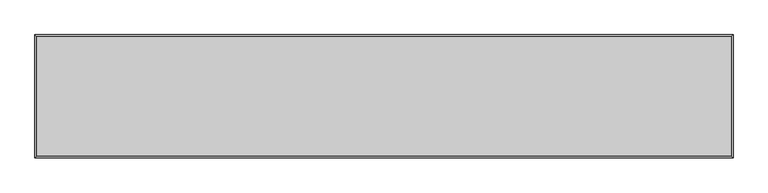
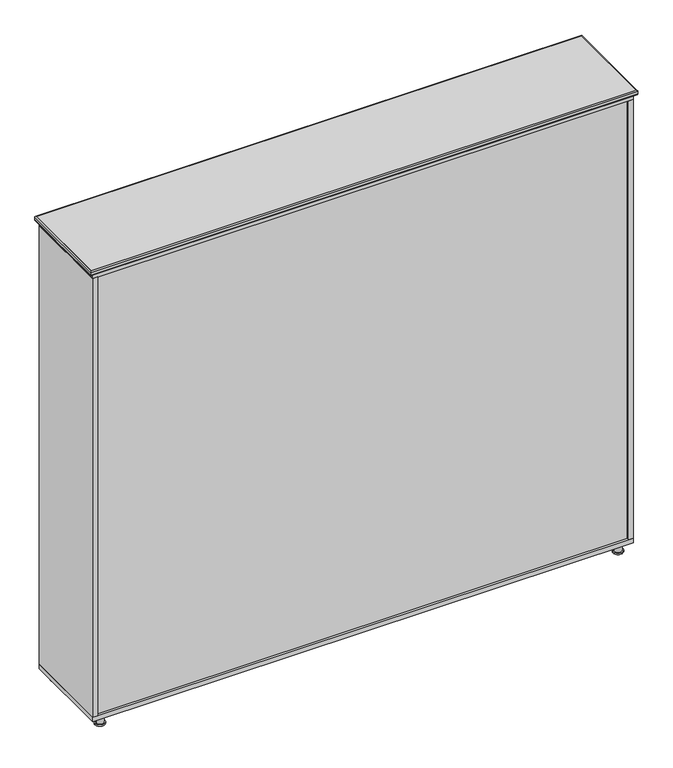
"""IFC4 building model written with IfcOpenShell, lengths in millimetres: furniture geometry, 书柜7 : W800*D419*H1515mm 3."""

import ifcopenshell
import ifcopenshell.guid

model = None  # the IFC model being written
_history = None  # IfcOwnerHistory: only IFC2X3 demands one
_inside = {}  # id of a spatial element -> (the spatial element, [elements in it])
_under = {}  # id of a project, library or spatial element -> (it, [spatial elements below it])
_declared = {}  # id of a project -> (the project, [libraries it declares])
_typed = {}  # id of a type object -> (the type object, [elements of that type])
_made_of = {}  # id of a material, layer set ... -> (it, [elements and type objects made of it])


def new_model(schema):
    """Start an empty IFC model of exactly this schema.

    Asked for "IFC4X3", IfcOpenShell would pick the latest addendum, in which some entities
    have other attributes; the version numbers below select the first issue.
    IFC2X3 requires an IfcOwnerHistory on every rooted entity: one is made here for all.
    """
    global model, _history
    if schema == "IFC4X3":
        model = ifcopenshell.file(schema_version=(4, 3, 0, 0))
    else:
        model = ifcopenshell.file(schema=schema)
    _inside.clear()
    _under.clear()
    _declared.clear()
    _typed.clear()
    _made_of.clear()
    _history = None
    if model.schema == "IFC2X3":
        org = make("IfcOrganization", Name="unknown")
        user = make(
            "IfcPersonAndOrganization",
            ThePerson=make("IfcPerson", FamilyName="unknown"),
            TheOrganization=org,
        )
        app = make(
            "IfcApplication",
            ApplicationDeveloper=org,
            Version="unknown",
            ApplicationFullName="unknown",
            ApplicationIdentifier="unknown",
        )
        _history = make(
            "IfcOwnerHistory",
            OwningUser=user,
            OwningApplication=app,
            ChangeAction="ADDED",
            CreationDate=0,
        )
    return model


def make(cls, **values):
    """One entity of the class cls with the attributes given. An attribute that is None is left unset."""
    return model.create_entity(
        cls, **{name: value for name, value in values.items() if value is not None}
    )


def rooted(cls, **values):
    """An entity with a GlobalId (a new one), such as an element, a storey or a relation."""
    return make(cls, GlobalId=ifcopenshell.guid.new(), OwnerHistory=_history, **values)


def si_unit(unit_type, name, prefix=None):
    """IfcSIUnit, for example si_unit("LENGTHUNIT", "METRE", prefix="MILLI")."""
    return make("IfcSIUnit", UnitType=unit_type, Prefix=prefix, Name=name)


def assignment(units):
    """IfcUnitAssignment: the units of a project."""
    return None if units is None else make("IfcUnitAssignment", Units=units)


def point(xyz):
    """IfcCartesianPoint."""
    return None if xyz is None else make("IfcCartesianPoint", Coordinates=xyz)


def direction(xyz):
    """IfcDirection."""
    return None if xyz is None else make("IfcDirection", DirectionRatios=xyz)


def frame(location, z_axis=None, x_axis=None):
    """IfcAxis2Placement3D, a coordinate frame: its origin and axes. An axis left out is left unset."""
    return make(
        "IfcAxis2Placement3D",
        Location=point(location),
        Axis=direction(z_axis),
        RefDirection=direction(x_axis),
    )


def frame_2d(location, x_axis=None):
    """IfcAxis2Placement2D, a coordinate frame in the plane: its origin and x axis."""
    return make(
        "IfcAxis2Placement2D", Location=point(location), RefDirection=direction(x_axis)
    )


def origin():
    """The frame at (0, 0, 0) with its axes left unset."""
    return frame((0.0, 0.0, 0.0))


def origin_with_axes():
    """The frame at (0, 0, 0) with the z axis (0, 0, 1) and the x axis (1, 0, 0) written out."""
    return frame((0.0, 0.0, 0.0), z_axis=(0.0, 0.0, 1.0), x_axis=(1.0, 0.0, 0.0))


def place(relative_to, where):
    """IfcLocalPlacement: puts the frame where relative to a parent placement (None: the world)."""
    return make(
        "IfcLocalPlacement", PlacementRelTo=relative_to, RelativePlacement=where
    )


def context(
    kind, dimensions, precision=None, world=None, true_north=None, identifier=None
):
    """IfcGeometricRepresentationContext, for example the 3D "Model" context."""
    return make(
        "IfcGeometricRepresentationContext",
        ContextIdentifier=identifier,
        ContextType=kind,
        CoordinateSpaceDimension=dimensions,
        Precision=precision,
        WorldCoordinateSystem=world,
        TrueNorth=true_north,
    )


def project(units=None, contexts=None):
    """IfcProject with its units and contexts."""
    return rooted(
        "IfcProject",
        Name="project",
        RepresentationContexts=contexts,
        UnitsInContext=assignment(units),
    )


def spatial(cls, under=None, at=None, **own):
    """A site, building, storey or space (cls), placed at a placement, below another one or the project."""
    s = rooted(cls, ObjectPlacement=at, **own)
    if under is not None:
        _under.setdefault(under.id(), (under, []))[1].append(s)
    return s


def polyline(points):
    """IfcPolyline through the points."""
    return make("IfcPolyline", Points=[point(p) for p in points])


def circle_curve(where, radius):
    """IfcCircle in the frame where."""
    return make("IfcCircle", Position=where, Radius=radius)


def ellipse_curve(where, semi_axis1, semi_axis2):
    """IfcEllipse in the frame where."""
    return make(
        "IfcEllipse", Position=where, SemiAxis1=semi_axis1, SemiAxis2=semi_axis2
    )


def trimmed(basis, trim1, trim2, sense, master):
    """IfcTrimmedCurve: the piece of a basis curve between two trims."""
    return make(
        "IfcTrimmedCurve",
        BasisCurve=basis,
        Trim1=trim1,
        Trim2=trim2,
        SenseAgreement=sense,
        MasterRepresentation=master,
    )


def segment(curve, same_sense, transition):
    """IfcCompositeCurveSegment."""
    return make(
        "IfcCompositeCurveSegment",
        Transition=transition,
        SameSense=same_sense,
        ParentCurve=curve,
    )


def composite_curve(segments, self_intersect=None):
    """IfcCompositeCurve: segments joined end to end."""
    return make("IfcCompositeCurve", Segments=segments, SelfIntersect=self_intersect)


def outline(outer, holes=None, kind="AREA"):
    """IfcArbitraryClosedProfileDef: a profile drawn as a closed curve; with holes, ...WithVoids."""
    if holes is None:
        return make("IfcArbitraryClosedProfileDef", ProfileType=kind, OuterCurve=outer)
    return make(
        "IfcArbitraryProfileDefWithVoids",
        ProfileType=kind,
        OuterCurve=outer,
        InnerCurves=holes,
    )


def extrude(swept, where, along, depth):
    """IfcExtrudedAreaSolid: the profile swept, set in the frame where, extruded along a direction by depth."""
    return make(
        "IfcExtrudedAreaSolid",
        SweptArea=swept,
        Position=where,
        ExtrudedDirection=direction(along),
        Depth=depth,
    )


def shape(context_of_items, identifier, shape_type, items):
    """IfcShapeRepresentation: the items that make up one representation, for example the "Body"."""
    return make(
        "IfcShapeRepresentation",
        ContextOfItems=context_of_items,
        RepresentationIdentifier=identifier,
        RepresentationType=shape_type,
        Items=items,
    )


def source(mapping_origin, context_of_items, identifier, shape_type, items):
    """IfcRepresentationMap: a shape defined once, which mapped items show again and again."""
    return make(
        "IfcRepresentationMap",
        MappingOrigin=mapping_origin,
        MappedRepresentation=shape(context_of_items, identifier, shape_type, items),
    )


def transform(
    local_origin,
    x_axis=None,
    y_axis=None,
    z_axis=None,
    scale=None,
    scale2=None,
    scale3=None,
    uniform=True,
):
    """IfcCartesianTransformationOperator3D, or its non-uniform kind. x_axis, y_axis, z_axis: its Axis1, 2, 3."""
    if uniform:
        return make(
            "IfcCartesianTransformationOperator3D",
            Axis1=direction(x_axis),
            Axis2=direction(y_axis),
            LocalOrigin=point(local_origin),
            Scale=scale,
            Axis3=direction(z_axis),
        )
    return make(
        "IfcCartesianTransformationOperator3DnonUniform",
        Axis1=direction(x_axis),
        Axis2=direction(y_axis),
        LocalOrigin=point(local_origin),
        Scale=scale,
        Axis3=direction(z_axis),
        Scale2=scale2,
        Scale3=scale3,
    )


def mapped(mapping_source, mapping_target):
    """IfcMappedItem: shows the shape of a source again, moved by a transform."""
    return make(
        "IfcMappedItem", MappingSource=mapping_source, MappingTarget=mapping_target
    )


def made_of(thing, what):
    """Note that an element or type object is made of a material, layer set ...; save() writes the relation."""
    if what is not None:
        _made_of.setdefault(what.id(), (what, []))[1].append(thing)
    return thing


def element(
    cls,
    number,
    at=None,
    inside=None,
    cuts=None,
    type_object=None,
    material=None,
    context=None,
    identifier="Body",
    shape_type=None,
    held_by="IfcProductDefinitionShape",
    body=None,
    shapes=None,
    **own,
):
    """One element of the class cls, such as IfcWall. Its Tag is "e" and its number.

    at: its placement. inside: the storey or other place that contains it. cuts: it is an
    opening in that element (IfcRelVoidsElement). A single representation is given by context,
    identifier, shape_type and body (its items); several are given by shapes. held_by: the class
    of the entity that holds the representations. save() writes the other relations.
    """
    e = rooted(cls, Tag="e%d" % number, ObjectPlacement=at, **own)
    if body is not None:
        shapes = [shape(context, identifier, shape_type, body)]
    if shapes is not None:
        e.Representation = make(held_by, Representations=shapes)
    if inside is not None:
        _inside.setdefault(inside.id(), (inside, []))[1].append(e)
    if cuts is not None:
        rooted(
            "IfcRelVoidsElement", RelatingBuildingElement=cuts, RelatedOpeningElement=e
        )
    if type_object is not None:
        _typed.setdefault(type_object.id(), (type_object, []))[1].append(e)
    return made_of(e, material)


def aggregate(whole, parts):
    """IfcRelAggregates: a whole, such as a stair, and the parts it consists of."""
    return rooted("IfcRelAggregates", RelatingObject=whole, RelatedObjects=parts)


def save(model, path):
    """Write the relations noted so far, then the file.

    IfcRelAggregates (storeys below a building ...), IfcRelContainedInSpatialStructure (elements
    in a storey), IfcRelDefinesByType, IfcRelAssociatesMaterial and IfcRelDeclares: one each for
    every whole, place, type object, material and project.
    """
    for whole, parts in _under.values():
        aggregate(whole, parts)
    for where, things in _inside.values():
        rooted(
            "IfcRelContainedInSpatialStructure",
            RelatedElements=things,
            RelatingStructure=where,
        )
    for kind, things in _typed.values():
        rooted("IfcRelDefinesByType", RelatedObjects=things, RelatingType=kind)
    for what, things in _made_of.values():
        rooted("IfcRelAssociatesMaterial", RelatedObjects=things, RelatingMaterial=what)
    for by, libraries in _declared.values():
        rooted("IfcRelDeclares", RelatingContext=by, RelatedDefinitions=libraries)
    model.write(path)


def plane_surface(at):
    """IfcPlane: the flat surface through the origin of the frame at, square to its z axis."""
    return make("IfcPlane", Position=at)


def cylinder_surface(at, radius):
    """IfcCylindricalSurface: all points at the distance radius from the z axis of the frame at."""
    return make("IfcCylindricalSurface", Position=at, Radius=radius)


def advanced_brep(points, edges, surfaces, faces):
    """IfcAdvancedBrep: a solid bounded by faces that lie on surfaces and meet in shared edges.

    An edge is (start, end): straight between two places in points (the first is 0);
    or (start, end, curve); or (start, end, curve, False) where it runs against its curve.
    A face is (place in surfaces, loops), or (place, loops, False) where it looks against
    its surface's normal. A loop lists edges by number (the first is 1), with a minus sign
    where the edge is run from its end to its start. The first loop is the outer one.
    """
    corners = [point(p) for p in points]
    vertices = [make("IfcVertexPoint", VertexGeometry=c) for c in corners]
    made = []
    for start, end, *more in edges:
        made.append(
            make(
                "IfcEdgeCurve",
                EdgeStart=vertices[start],
                EdgeEnd=vertices[end],
                EdgeGeometry=more[0] if more else make("IfcPolyline", Points=[corners[start], corners[end]]),
                SameSense=more[1] if len(more) > 1 else True,
            )
        )
    hull = []
    for where, loops, *sense in faces:
        bounds = []
        for j, loop in enumerate(loops):
            ring = [make("IfcOrientedEdge", EdgeElement=made[abs(k) - 1], Orientation=k > 0) for k in loop]
            bounds.append(
                make(
                    "IfcFaceOuterBound" if j == 0 else "IfcFaceBound",
                    Bound=make("IfcEdgeLoop", EdgeList=ring),
                    Orientation=True,
                )
            )
        hull.append(make("IfcAdvancedFace", Bounds=bounds, FaceSurface=surfaces[where], SameSense=sense[0] if sense else True))
    return make("IfcAdvancedBrep", Outer=make("IfcClosedShell", CfsFaces=hull))


def furniture_e67e84cc(model_context):
    return source(origin(), model_context, "Body", "SolidModel", [
        extrude(outline(polyline([(825.0, -159.2785466), (-825.0, -159.2785466), (-825.0, 115.0), (825.0, 115.0), (825.0, -159.2785466)])), frame((0.0, 0.0, 397.0), z_axis=(0.0, 0.0, 1.0), x_axis=(1.0, 0.0, 0.0)), (0.0, 0.0, 1.0), 16.0),
        extrude(outline(polyline([(825.0, -159.2785466), (-825.0, -159.2785466), (-825.0, 115.0), (825.0, 115.0), (825.0, -159.2785466)])), frame((0.0, 0.0, 1117.0), z_axis=(0.0, 0.0, 1.0), x_axis=(1.0, 0.0, 0.0)), (0.0, 0.0, 1.0), 16.0),
        extrude(outline(polyline([(825.0, -165.0), (-825.0, -165.0), (-825.0, -159.2785466), (825.0, -159.2785466), (825.0, -165.0)])), frame((0.0, 0.0, 45.0), z_axis=(0.0, 0.0, 1.0), x_axis=(1.0, 0.0, 0.0)), (0.0, 0.0, 1.0), 1440.0),
        extrude(outline(composite_curve([segment(trimmed(circle_curve(frame_2d((805.0, -149.3474913)), 11.561262), [point((816.561262, -149.3474913))], [point((793.438738, -149.3474913))], False, "CARTESIAN"), True, "CONTINUOUS"), segment(trimmed(circle_curve(frame_2d((805.0, -149.3474913)), 11.561262), [point((793.438738, -149.3474913))], [point((816.561262, -149.3474913))], False, "CARTESIAN"), True, "CONTINUOUS")], self_intersect=False)), frame((0.0, 0.0, 4.4532093), z_axis=(0.0, 0.0, 1.0), x_axis=(1.0, 0.0, 0.0)), (0.0, 0.0, 1.0), 25.5467907),
        extrude(outline(composite_curve([segment(trimmed(circle_curve(frame_2d((805.0, -149.3474913)), 15.4868656), [point((820.4868656, -149.3474913))], [point((789.5131344, -149.3474913))], False, "CARTESIAN"), True, "CONTINUOUS"), segment(trimmed(circle_curve(frame_2d((805.0, -149.3474913)), 15.4868656), [point((789.5131344, -149.3474913))], [point((820.4868656, -149.3474913))], False, "CARTESIAN"), True, "CONTINUOUS")], self_intersect=False)), origin_with_axes(), (0.0, 0.0, 1.0), 4.4532093),
        extrude(outline(composite_curve([segment(trimmed(circle_curve(frame_2d((-805.0, -149.3474913)), 11.561262), [point((-816.561262, -149.3474913))], [point((-793.438738, -149.3474913))], False, "CARTESIAN"), True, "CONTINUOUS"), segment(trimmed(circle_curve(frame_2d((-805.0, -149.3474913)), 11.561262), [point((-793.438738, -149.3474913))], [point((-816.561262, -149.3474913))], False, "CARTESIAN"), True, "CONTINUOUS")], self_intersect=False)), frame((0.0, 0.0, 4.4532093), z_axis=(0.0, 0.0, 1.0), x_axis=(1.0, 0.0, 0.0)), (0.0, 0.0, 1.0), 25.5467907),
        extrude(outline(composite_curve([segment(trimmed(circle_curve(frame_2d((-805.0, -149.3474913)), 15.4868656), [point((-820.4868656, -149.3474913))], [point((-789.5131344, -149.3474913))], False, "CARTESIAN"), True, "CONTINUOUS"), segment(trimmed(circle_curve(frame_2d((-805.0, -149.3474913)), 15.4868656), [point((-789.5131344, -149.3474913))], [point((-820.4868656, -149.3474913))], False, "CARTESIAN"), True, "CONTINUOUS")], self_intersect=False)), origin_with_axes(), (0.0, 0.0, 1.0), 4.4532093),
        extrude(outline(composite_curve([segment(trimmed(circle_curve(frame_2d((805.0, 88.0)), 11.561262), [point((816.561262, 88.0))], [point((793.438738, 88.0))], False, "CARTESIAN"), True, "CONTINUOUS"), segment(trimmed(circle_curve(frame_2d((805.0, 88.0)), 11.561262), [point((793.438738, 88.0))], [point((816.561262, 88.0))], False, "CARTESIAN"), True, "CONTINUOUS")], self_intersect=False)), frame((0.0, 0.0, 4.4532093), z_axis=(0.0, 0.0, 1.0), x_axis=(1.0, 0.0, 0.0)), (0.0, 0.0, 1.0), 25.5467907),
        extrude(outline(composite_curve([segment(trimmed(circle_curve(frame_2d((805.0, 88.0)), 15.4868656), [point((820.4868656, 88.0))], [point((789.5131344, 88.0))], False, "CARTESIAN"), True, "CONTINUOUS"), segment(trimmed(circle_curve(frame_2d((805.0, 88.0)), 15.4868656), [point((789.5131344, 88.0))], [point((820.4868656, 88.0))], False, "CARTESIAN"), True, "CONTINUOUS")], self_intersect=False)), origin_with_axes(), (0.0, 0.0, 1.0), 4.4532093),
        extrude(outline(composite_curve([segment(trimmed(circle_curve(frame_2d((-805.0, 88.0)), 11.561262), [point((-816.561262, 88.0))], [point((-793.438738, 88.0))], False, "CARTESIAN"), True, "CONTINUOUS"), segment(trimmed(circle_curve(frame_2d((-805.0, 88.0)), 11.561262), [point((-793.438738, 88.0))], [point((-816.561262, 88.0))], False, "CARTESIAN"), True, "CONTINUOUS")], self_intersect=False)), frame((0.0, 0.0, 4.4532093), z_axis=(0.0, 0.0, 1.0), x_axis=(1.0, 0.0, 0.0)), (0.0, 0.0, 1.0), 25.5467907),
        extrude(outline(composite_curve([segment(trimmed(circle_curve(frame_2d((-805.0, 88.0)), 15.4868656), [point((-820.4868656, 88.0))], [point((-789.5131344, 88.0))], False, "CARTESIAN"), True, "CONTINUOUS"), segment(trimmed(circle_curve(frame_2d((-805.0, 88.0)), 15.4868656), [point((-789.5131344, 88.0))], [point((-820.4868656, 88.0))], False, "CARTESIAN"), True, "CONTINUOUS")], self_intersect=False)), origin_with_axes(), (0.0, 0.0, 1.0), 4.4532093),
        advanced_brep(
        [(850.0, -178.0, 1512.0), (850.0, 122.0, 1512.0), (847.0, 119.0, 1515.0), (847.0, -175.0, 1515.0), (850.0, -178.0, 1503.0), (850.0, 122.0, 1503.0), (847.0, -175.0, 1500.0), (847.0, 119.0, 1500.0), (-850.0, 122.0, 1512.0), (-847.0, 119.0, 1515.0), (-850.0, 122.0, 1503.0), (-847.0, 119.0, 1500.0), (-850.0, -178.0, 1512.0), (-847.0, -175.0, 1515.0), (-850.0, -178.0, 1503.0), (-847.0, -175.0, 1500.0)],
        [
            (0, 1),
            (1, 2, ellipse_curve(frame((847.0, 119.0, 1512.0), z_axis=(0.7071067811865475, -0.7071067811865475, 0.0), x_axis=(-0.7071067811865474, -0.7071067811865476, 0.0)), 4.2426407, 3.0)),
            (2, 3),
            (3, 0, ellipse_curve(frame((847.0, -175.0, 1512.0), z_axis=(0.7071067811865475, 0.7071067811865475, 0.0), x_axis=(0.7071067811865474, -0.7071067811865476, 0.0)), 4.2426407, 3.0)),
            (4, 5),
            (5, 1),
            (0, 4),
            (6, 7),
            (7, 5, ellipse_curve(frame((847.0, 119.0, 1503.0), z_axis=(0.7071067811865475, -0.7071067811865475, 0.0), x_axis=(-0.7071067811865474, -0.7071067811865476, 0.0)), 4.2426407, 3.0)),
            (4, 6, ellipse_curve(frame((847.0, -175.0, 1503.0), z_axis=(0.7071067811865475, 0.7071067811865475, 0.0), x_axis=(0.7071067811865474, -0.7071067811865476, 0.0)), 4.2426407, 3.0)),
            (2, 7),
            (6, 3),
            (1, 8),
            (8, 9, ellipse_curve(frame((-847.0, 119.0, 1512.0), z_axis=(0.7071067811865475, 0.7071067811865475, 0.0), x_axis=(0.7071067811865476, -0.7071067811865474, 0.0)), 4.2426407, 3.0)),
            (9, 2),
            (5, 10),
            (10, 8),
            (7, 11),
            (11, 10, ellipse_curve(frame((-847.0, 119.0, 1503.0), z_axis=(0.7071067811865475, 0.7071067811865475, 0.0), x_axis=(0.7071067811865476, -0.7071067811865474, 0.0)), 4.2426407, 3.0)),
            (9, 11),
            (8, 12),
            (12, 13, ellipse_curve(frame((-847.0, -175.0, 1512.0), z_axis=(-0.7071067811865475, 0.7071067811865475, 0.0), x_axis=(0.7071067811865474, 0.7071067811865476, 0.0)), 4.2426407, 3.0)),
            (13, 9),
            (10, 14),
            (14, 12),
            (11, 15),
            (15, 14, ellipse_curve(frame((-847.0, -175.0, 1503.0), z_axis=(-0.7071067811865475, 0.7071067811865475, 0.0), x_axis=(0.7071067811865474, 0.7071067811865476, 0.0)), 4.2426407, 3.0)),
            (13, 15),
            (12, 0),
            (3, 13),
            (14, 4),
            (15, 6),
        ],
        [
            cylinder_surface(frame((847.0, -178.0, 1512.0), z_axis=(0.0, -1.0, 0.0), x_axis=(1.0, 0.0, 0.0)), 3.0),
            plane_surface(frame((850.0, -178.0, 1512.0), z_axis=(1.0, 0.0, 0.0), x_axis=(0.0, 1.0, 0.0))),
            cylinder_surface(frame((847.0, -178.0, 1503.0), z_axis=(0.0, -1.0, 0.0), x_axis=(1.0, 0.0, 0.0)), 3.0),
            plane_surface(frame((847.0, -175.0, 1500.0), z_axis=(-1.0, 0.0, 0.0), x_axis=(0.0, 1.0, 0.0))),
            cylinder_surface(frame((850.0, 119.0, 1512.0), z_axis=(1.0, 0.0, 0.0), x_axis=(0.0, 1.0, 0.0)), 3.0),
            plane_surface(frame((850.0, 122.0, 1512.0), z_axis=(0.0, 1.0, 0.0), x_axis=(-1.0, 0.0, 0.0))),
            cylinder_surface(frame((850.0, 119.0, 1503.0), z_axis=(1.0, 0.0, 0.0), x_axis=(0.0, 1.0, 0.0)), 3.0),
            plane_surface(frame((847.0, 119.0, 1500.0), z_axis=(0.0, -1.0, 0.0), x_axis=(-1.0, 0.0, 0.0))),
            cylinder_surface(frame((-847.0, 122.0, 1512.0), z_axis=(0.0, 1.0, 0.0), x_axis=(-1.0, 0.0, 0.0)), 3.0),
            plane_surface(frame((-850.0, 122.0, 1512.0), z_axis=(-1.0, 0.0, 0.0), x_axis=(0.0, -1.0, 0.0))),
            cylinder_surface(frame((-847.0, 122.0, 1503.0), z_axis=(0.0, 1.0, 0.0), x_axis=(-1.0, 0.0, 0.0)), 3.0),
            plane_surface(frame((-847.0, 119.0, 1500.0), z_axis=(1.0, 0.0, 0.0), x_axis=(0.0, -1.0, 0.0))),
            cylinder_surface(frame((-850.0, -175.0, 1512.0), z_axis=(-1.0, 0.0, 0.0), x_axis=(0.0, -1.0, 0.0)), 3.0),
            plane_surface(frame((-850.0, -178.0, 1512.0), z_axis=(0.0, -1.0, 0.0), x_axis=(1.0, 0.0, 0.0))),
            cylinder_surface(frame((-850.0, -175.0, 1503.0), z_axis=(-1.0, 0.0, 0.0), x_axis=(0.0, -1.0, 0.0)), 3.0),
            plane_surface(frame((-847.0, -175.0, 1500.0), z_axis=(0.0, 1.0, 0.0), x_axis=(1.0, 0.0, 0.0))),
        ],
        [
            (0, [[1, 2, 3, 4]]),
            (1, [[5, 6, -1, 7]]),
            (2, [[8, 9, -5, 10]]),
            (3, [[-3, 11, -8, 12]]),
            (4, [[13, 14, 15, -2]]),
            (5, [[16, 17, -13, -6]]),
            (6, [[18, 19, -16, -9]]),
            (7, [[-15, 20, -18, -11]]),
            (8, [[21, 22, 23, -14]]),
            (9, [[24, 25, -21, -17]]),
            (10, [[26, 27, -24, -19]]),
            (11, [[-23, 28, -26, -20]]),
            (12, [[29, -4, 30, -22]]),
            (13, [[31, -7, -29, -25]]),
            (14, [[32, -10, -31, -27]]),
            (15, [[-30, -12, -32, -28]]),
        ],
    ),
        extrude(outline(polyline([(847.0, -175.0), (-847.0, -175.0), (-847.0, 119.0), (847.0, 119.0), (847.0, -175.0)])), frame((0.0, 0.0, 1500.0), z_axis=(0.0, 0.0, 1.0), x_axis=(1.0, 0.0, 0.0)), (0.0, 0.0, 1.0), 15.0),
        extrude(outline(polyline([(825.0, 115.0), (840.0, 115.0), (840.0, -172.0), (825.0, -172.0), (825.0, 115.0)])), frame((0.0, 0.0, 45.0), z_axis=(0.0, 0.0, 1.0), x_axis=(1.0, 0.0, 0.0)), (0.0, 0.0, 1.0), 1440.0),
        extrude(outline(polyline([(-825.0, -172.0), (-840.0, -172.0), (-840.0, 115.0), (-825.0, 115.0), (-825.0, -172.0)])), frame((0.0, 0.0, 45.0), z_axis=(0.0, 0.0, 1.0), x_axis=(1.0, 0.0, 0.0)), (0.0, 0.0, 1.0), 1440.0),
        extrude(outline(polyline([(825.0, -159.2785466), (-825.0, -159.2785466), (-825.0, 115.0), (825.0, 115.0), (825.0, -159.2785466)])), frame((0.0, 0.0, 757.5), z_axis=(0.0, 0.0, 1.0), x_axis=(1.0, 0.0, 0.0)), (0.0, 0.0, 1.0), 15.0),
        extrude(outline(polyline([(840.0, 115.0), (840.0, -172.0), (-840.0, -172.0), (-840.0, 115.0), (840.0, 115.0)])), frame((0.0, 0.0, 1485.0), z_axis=(0.0, 0.0, 1.0), x_axis=(1.0, 0.0, 0.0)), (0.0, 0.0, 1.0), 15.0),
        extrude(outline(polyline([(840.0, 115.0), (840.0, -172.0), (-840.0, -172.0), (-840.0, 115.0), (840.0, 115.0)])), frame((0.0, 0.0, 30.0), z_axis=(0.0, 0.0, 1.0), x_axis=(1.0, 0.0, 0.0)), (0.0, 0.0, 1.0), 15.0),
    ])


if __name__ == "__main__":
    model = new_model("IFC4")
    model_context = context("Model", 3, world=origin())
    ifc_project = project(units=[si_unit("LENGTHUNIT", "METRE", prefix="MILLI")], contexts=[model_context])
    site = spatial("IfcSite", under=ifc_project)
    building = spatial("IfcBuilding", under=site)
    placement = place(None, origin())
    furniture_shape = furniture_e67e84cc(model_context)
    element("IfcFurniture", 1, ObjectType="书柜7 : W800*D419*H1515mm 3", at=placement, inside=building, context=model_context, shape_type="MappedRepresentation", body=[
        mapped(furniture_shape, transform((0.0, 0.0, 0.0), x_axis=(1.0, 0.0, 0.0), y_axis=(0.0, 1.0, 0.0), z_axis=(0.0, 0.0, 1.0))),
    ])
    save(model, "model.ifc")
